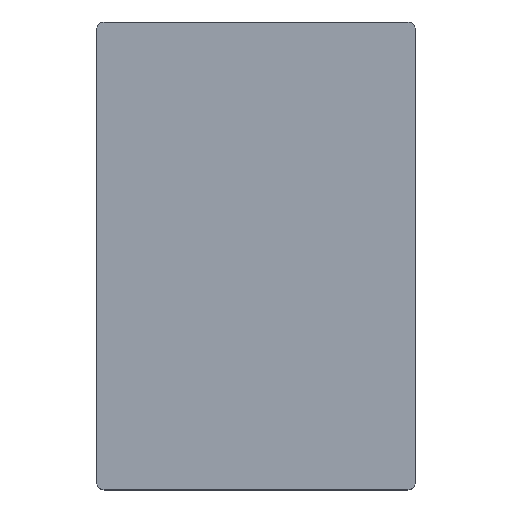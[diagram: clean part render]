
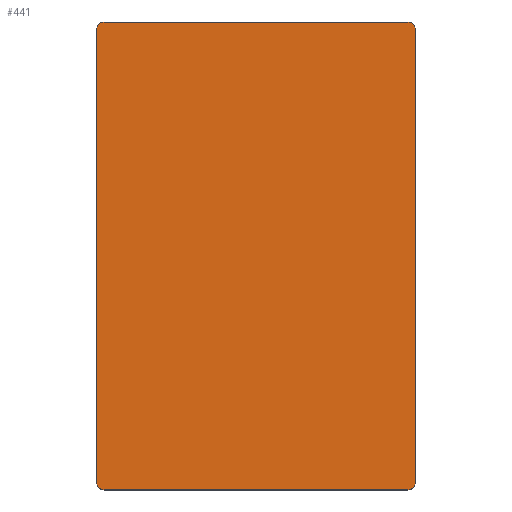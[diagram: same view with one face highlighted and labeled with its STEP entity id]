
A CAD part, top view. The second image highlights one B-rep face of the part: STEP entity #441.
In plain terms, the highlighted planar face has unit normal (0, 0, 1).
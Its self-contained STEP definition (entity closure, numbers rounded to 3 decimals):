
#32 = PLANE('',#33);
#33 = AXIS2_PLACEMENT_3D('',#34,#35,#36);
#34 = CARTESIAN_POINT('',(2.4,-25.1,10.6));
#35 = DIRECTION('',(1.,0.,-0.));
#36 = DIRECTION('',(0.,0.,1.));
#57 = VERTEX_POINT('',#58);
#58 = CARTESIAN_POINT('',(2.4,-24.3,10.6));
#72 = CYLINDRICAL_SURFACE('',#73,0.8);
#73 = AXIS2_PLACEMENT_3D('',#74,#75,#76);
#74 = CARTESIAN_POINT('',(3.2,-24.3,10.6));
#75 = DIRECTION('',(-0.,-0.,-1.));
#76 = DIRECTION('',(-1.,-0.,-0.));
#84 = EDGE_CURVE('',#57,#85,#87,.T.);
#85 = VERTEX_POINT('',#86);
#86 = CARTESIAN_POINT('',(2.4,24.3,10.6));
#87 = SURFACE_CURVE('',#88,(#92,#99),.PCURVE_S1.);
#88 = LINE('',#89,#90);
#89 = CARTESIAN_POINT('',(2.4,-25.1,10.6));
#90 = VECTOR('',#91,1.);
#91 = DIRECTION('',(-0.,1.,0.));
#92 = PCURVE('',#32,#93);
#93 = DEFINITIONAL_REPRESENTATION('',(#94),#98);
#94 = LINE('',#95,#96);
#95 = CARTESIAN_POINT('',(-0.,-0.));
#96 = VECTOR('',#97,1.);
#97 = DIRECTION('',(-0.,-1.));
#98 = ( GEOMETRIC_REPRESENTATION_CONTEXT(2) 
PARAMETRIC_REPRESENTATION_CONTEXT() REPRESENTATION_CONTEXT('2D SPACE',''
  ) );
#99 = PCURVE('',#100,#105);
#100 = PLANE('',#101);
#101 = AXIS2_PLACEMENT_3D('',#102,#103,#104);
#102 = CARTESIAN_POINT('',(2.4,-25.1,10.6));
#103 = DIRECTION('',(0.,-0.,-1.));
#104 = DIRECTION('',(-1.,0.,0.));
#105 = DEFINITIONAL_REPRESENTATION('',(#106),#110);
#106 = LINE('',#107,#108);
#107 = CARTESIAN_POINT('',(-0.,0.));
#108 = VECTOR('',#109,1.);
#109 = DIRECTION('',(-0.,1.));
#110 = ( GEOMETRIC_REPRESENTATION_CONTEXT(2) 
PARAMETRIC_REPRESENTATION_CONTEXT() REPRESENTATION_CONTEXT('2D SPACE',''
  ) );
#126 = CYLINDRICAL_SURFACE('',#127,0.8);
#127 = AXIS2_PLACEMENT_3D('',#128,#129,#130);
#128 = CARTESIAN_POINT('',(3.2,24.3,10.6));
#129 = DIRECTION('',(-0.,-0.,-1.));
#130 = DIRECTION('',(-1.,-0.,-0.));
#186 = PLANE('',#187);
#187 = AXIS2_PLACEMENT_3D('',#188,#189,#190);
#188 = CARTESIAN_POINT('',(2.4,-25.1,10.6));
#189 = DIRECTION('',(-0.,1.,0.));
#190 = DIRECTION('',(0.,0.,1.));
#215 = CYLINDRICAL_SURFACE('',#216,0.8);
#216 = AXIS2_PLACEMENT_3D('',#217,#218,#219);
#217 = CARTESIAN_POINT('',(35.8,-24.3,10.6));
#218 = DIRECTION('',(-0.,-0.,-1.));
#219 = DIRECTION('',(1.,-0.,-0.));
#243 = PLANE('',#244);
#244 = AXIS2_PLACEMENT_3D('',#245,#246,#247);
#245 = CARTESIAN_POINT('',(36.6,-25.1,10.6));
#246 = DIRECTION('',(1.,0.,-0.));
#247 = DIRECTION('',(0.,0.,1.));
#276 = CYLINDRICAL_SURFACE('',#277,0.8);
#277 = AXIS2_PLACEMENT_3D('',#278,#279,#280);
#278 = CARTESIAN_POINT('',(35.8,24.3,10.6));
#279 = DIRECTION('',(-0.,-0.,-1.));
#280 = DIRECTION('',(1.,-0.,-0.));
#304 = PLANE('',#305);
#305 = AXIS2_PLACEMENT_3D('',#306,#307,#308);
#306 = CARTESIAN_POINT('',(2.4,25.1,10.6));
#307 = DIRECTION('',(-0.,1.,0.));
#308 = DIRECTION('',(0.,0.,1.));
#341 = EDGE_CURVE('',#57,#342,#344,.T.);
#342 = VERTEX_POINT('',#343);
#343 = CARTESIAN_POINT('',(3.2,-25.1,10.6));
#344 = SURFACE_CURVE('',#345,(#350,#357),.PCURVE_S1.);
#345 = CIRCLE('',#346,0.8);
#346 = AXIS2_PLACEMENT_3D('',#347,#348,#349);
#347 = CARTESIAN_POINT('',(3.2,-24.3,10.6));
#348 = DIRECTION('',(0.,-0.,1.));
#349 = DIRECTION('',(-0.,-1.,-0.));
#350 = PCURVE('',#72,#351);
#351 = DEFINITIONAL_REPRESENTATION('',(#352),#356);
#352 = LINE('',#353,#354);
#353 = CARTESIAN_POINT('',(4.712,-0.));
#354 = VECTOR('',#355,1.);
#355 = DIRECTION('',(-1.,0.));
#356 = ( GEOMETRIC_REPRESENTATION_CONTEXT(2) 
PARAMETRIC_REPRESENTATION_CONTEXT() REPRESENTATION_CONTEXT('2D SPACE',''
  ) );
#357 = PCURVE('',#100,#358);
#358 = DEFINITIONAL_REPRESENTATION('',(#359),#367);
#359 = ( BOUNDED_CURVE() B_SPLINE_CURVE(2,(#360,#361,#362,#363,#364,#365
,#366),.UNSPECIFIED.,.T.,.F.) B_SPLINE_CURVE_WITH_KNOTS((1,2,2,2,2,1),(
    -2.094,0.,2.094,4.189,6.283,
8.378),.UNSPECIFIED.) CURVE() GEOMETRIC_REPRESENTATION_ITEM() 
RATIONAL_B_SPLINE_CURVE((1.,0.5,1.,0.5,1.,0.5,1.)) REPRESENTATION_ITEM(
  '') );
#360 = CARTESIAN_POINT('',(-0.8,0.));
#361 = CARTESIAN_POINT('',(-2.186,0.));
#362 = CARTESIAN_POINT('',(-1.493,1.2));
#363 = CARTESIAN_POINT('',(-0.8,2.4));
#364 = CARTESIAN_POINT('',(-0.107,1.2));
#365 = CARTESIAN_POINT('',(0.586,0.));
#366 = CARTESIAN_POINT('',(-0.8,0.));
#367 = ( GEOMETRIC_REPRESENTATION_CONTEXT(2) 
PARAMETRIC_REPRESENTATION_CONTEXT() REPRESENTATION_CONTEXT('2D SPACE',''
  ) );
#395 = EDGE_CURVE('',#85,#396,#398,.T.);
#396 = VERTEX_POINT('',#397);
#397 = CARTESIAN_POINT('',(3.2,25.1,10.6));
#398 = SURFACE_CURVE('',#399,(#404,#411),.PCURVE_S1.);
#399 = CIRCLE('',#400,0.8);
#400 = AXIS2_PLACEMENT_3D('',#401,#402,#403);
#401 = CARTESIAN_POINT('',(3.2,24.3,10.6));
#402 = DIRECTION('',(0.,0.,-1.));
#403 = DIRECTION('',(-0.,-1.,-0.));
#404 = PCURVE('',#126,#405);
#405 = DEFINITIONAL_REPRESENTATION('',(#406),#410);
#406 = LINE('',#407,#408);
#407 = CARTESIAN_POINT('',(-1.571,0.));
#408 = VECTOR('',#409,1.);
#409 = DIRECTION('',(1.,0.));
#410 = ( GEOMETRIC_REPRESENTATION_CONTEXT(2) 
PARAMETRIC_REPRESENTATION_CONTEXT() REPRESENTATION_CONTEXT('2D SPACE',''
  ) );
#411 = PCURVE('',#100,#412);
#412 = DEFINITIONAL_REPRESENTATION('',(#413),#417);
#413 = CIRCLE('',#414,0.8);
#414 = AXIS2_PLACEMENT_2D('',#415,#416);
#415 = CARTESIAN_POINT('',(-0.8,49.4));
#416 = DIRECTION('',(-0.,-1.));
#417 = ( GEOMETRIC_REPRESENTATION_CONTEXT(2) 
PARAMETRIC_REPRESENTATION_CONTEXT() REPRESENTATION_CONTEXT('2D SPACE',''
  ) );
#441 = ADVANCED_FACE('',(#442),#100,.F.);
#442 = FACE_BOUND('',#443,.T.);
#443 = EDGE_LOOP('',(#444,#445,#446,#469,#493,#516,#544,#565));
#444 = ORIENTED_EDGE('',*,*,#84,.F.);
#445 = ORIENTED_EDGE('',*,*,#341,.T.);
#446 = ORIENTED_EDGE('',*,*,#447,.T.);
#447 = EDGE_CURVE('',#342,#448,#450,.T.);
#448 = VERTEX_POINT('',#449);
#449 = CARTESIAN_POINT('',(35.8,-25.1,10.6));
#450 = SURFACE_CURVE('',#451,(#455,#462),.PCURVE_S1.);
#451 = LINE('',#452,#453);
#452 = CARTESIAN_POINT('',(2.4,-25.1,10.6));
#453 = VECTOR('',#454,1.);
#454 = DIRECTION('',(1.,0.,-0.));
#455 = PCURVE('',#100,#456);
#456 = DEFINITIONAL_REPRESENTATION('',(#457),#461);
#457 = LINE('',#458,#459);
#458 = CARTESIAN_POINT('',(-0.,0.));
#459 = VECTOR('',#460,1.);
#460 = DIRECTION('',(-1.,0.));
#461 = ( GEOMETRIC_REPRESENTATION_CONTEXT(2) 
PARAMETRIC_REPRESENTATION_CONTEXT() REPRESENTATION_CONTEXT('2D SPACE',''
  ) );
#462 = PCURVE('',#186,#463);
#463 = DEFINITIONAL_REPRESENTATION('',(#464),#468);
#464 = LINE('',#465,#466);
#465 = CARTESIAN_POINT('',(0.,-0.));
#466 = VECTOR('',#467,1.);
#467 = DIRECTION('',(-0.,1.));
#468 = ( GEOMETRIC_REPRESENTATION_CONTEXT(2) 
PARAMETRIC_REPRESENTATION_CONTEXT() REPRESENTATION_CONTEXT('2D SPACE',''
  ) );
#469 = ORIENTED_EDGE('',*,*,#470,.F.);
#470 = EDGE_CURVE('',#471,#448,#473,.T.);
#471 = VERTEX_POINT('',#472);
#472 = CARTESIAN_POINT('',(36.6,-24.3,10.6));
#473 = SURFACE_CURVE('',#474,(#479,#486),.PCURVE_S1.);
#474 = CIRCLE('',#475,0.8);
#475 = AXIS2_PLACEMENT_3D('',#476,#477,#478);
#476 = CARTESIAN_POINT('',(35.8,-24.3,10.6));
#477 = DIRECTION('',(0.,0.,-1.));
#478 = DIRECTION('',(-0.,-1.,-0.));
#479 = PCURVE('',#100,#480);
#480 = DEFINITIONAL_REPRESENTATION('',(#481),#485);
#481 = CIRCLE('',#482,0.8);
#482 = AXIS2_PLACEMENT_2D('',#483,#484);
#483 = CARTESIAN_POINT('',(-33.4,0.8));
#484 = DIRECTION('',(-0.,-1.));
#485 = ( GEOMETRIC_REPRESENTATION_CONTEXT(2) 
PARAMETRIC_REPRESENTATION_CONTEXT() REPRESENTATION_CONTEXT('2D SPACE',''
  ) );
#486 = PCURVE('',#215,#487);
#487 = DEFINITIONAL_REPRESENTATION('',(#488),#492);
#488 = LINE('',#489,#490);
#489 = CARTESIAN_POINT('',(-4.712,0.));
#490 = VECTOR('',#491,1.);
#491 = DIRECTION('',(1.,0.));
#492 = ( GEOMETRIC_REPRESENTATION_CONTEXT(2) 
PARAMETRIC_REPRESENTATION_CONTEXT() REPRESENTATION_CONTEXT('2D SPACE',''
  ) );
#493 = ORIENTED_EDGE('',*,*,#494,.T.);
#494 = EDGE_CURVE('',#471,#495,#497,.T.);
#495 = VERTEX_POINT('',#496);
#496 = CARTESIAN_POINT('',(36.6,24.3,10.6));
#497 = SURFACE_CURVE('',#498,(#502,#509),.PCURVE_S1.);
#498 = LINE('',#499,#500);
#499 = CARTESIAN_POINT('',(36.6,-25.1,10.6));
#500 = VECTOR('',#501,1.);
#501 = DIRECTION('',(-0.,1.,0.));
#502 = PCURVE('',#100,#503);
#503 = DEFINITIONAL_REPRESENTATION('',(#504),#508);
#504 = LINE('',#505,#506);
#505 = CARTESIAN_POINT('',(-34.2,0.));
#506 = VECTOR('',#507,1.);
#507 = DIRECTION('',(-0.,1.));
#508 = ( GEOMETRIC_REPRESENTATION_CONTEXT(2) 
PARAMETRIC_REPRESENTATION_CONTEXT() REPRESENTATION_CONTEXT('2D SPACE',''
  ) );
#509 = PCURVE('',#243,#510);
#510 = DEFINITIONAL_REPRESENTATION('',(#511),#515);
#511 = LINE('',#512,#513);
#512 = CARTESIAN_POINT('',(-0.,-0.));
#513 = VECTOR('',#514,1.);
#514 = DIRECTION('',(-0.,-1.));
#515 = ( GEOMETRIC_REPRESENTATION_CONTEXT(2) 
PARAMETRIC_REPRESENTATION_CONTEXT() REPRESENTATION_CONTEXT('2D SPACE',''
  ) );
#516 = ORIENTED_EDGE('',*,*,#517,.T.);
#517 = EDGE_CURVE('',#495,#518,#520,.T.);
#518 = VERTEX_POINT('',#519);
#519 = CARTESIAN_POINT('',(35.8,25.1,10.6));
#520 = SURFACE_CURVE('',#521,(#526,#537),.PCURVE_S1.);
#521 = CIRCLE('',#522,0.8);
#522 = AXIS2_PLACEMENT_3D('',#523,#524,#525);
#523 = CARTESIAN_POINT('',(35.8,24.3,10.6));
#524 = DIRECTION('',(0.,-0.,1.));
#525 = DIRECTION('',(-0.,-1.,-0.));
#526 = PCURVE('',#100,#527);
#527 = DEFINITIONAL_REPRESENTATION('',(#528),#536);
#528 = ( BOUNDED_CURVE() B_SPLINE_CURVE(2,(#529,#530,#531,#532,#533,#534
,#535),.UNSPECIFIED.,.T.,.F.) B_SPLINE_CURVE_WITH_KNOTS((1,2,2,2,2,1),(
    -2.094,0.,2.094,4.189,6.283,
8.378),.UNSPECIFIED.) CURVE() GEOMETRIC_REPRESENTATION_ITEM() 
RATIONAL_B_SPLINE_CURVE((1.,0.5,1.,0.5,1.,0.5,1.)) REPRESENTATION_ITEM(
  '') );
#529 = CARTESIAN_POINT('',(-33.4,48.6));
#530 = CARTESIAN_POINT('',(-34.786,48.6));
#531 = CARTESIAN_POINT('',(-34.093,49.8));
#532 = CARTESIAN_POINT('',(-33.4,51.));
#533 = CARTESIAN_POINT('',(-32.707,49.8));
#534 = CARTESIAN_POINT('',(-32.014,48.6));
#535 = CARTESIAN_POINT('',(-33.4,48.6));
#536 = ( GEOMETRIC_REPRESENTATION_CONTEXT(2) 
PARAMETRIC_REPRESENTATION_CONTEXT() REPRESENTATION_CONTEXT('2D SPACE',''
  ) );
#537 = PCURVE('',#276,#538);
#538 = DEFINITIONAL_REPRESENTATION('',(#539),#543);
#539 = LINE('',#540,#541);
#540 = CARTESIAN_POINT('',(1.571,-0.));
#541 = VECTOR('',#542,1.);
#542 = DIRECTION('',(-1.,0.));
#543 = ( GEOMETRIC_REPRESENTATION_CONTEXT(2) 
PARAMETRIC_REPRESENTATION_CONTEXT() REPRESENTATION_CONTEXT('2D SPACE',''
  ) );
#544 = ORIENTED_EDGE('',*,*,#545,.F.);
#545 = EDGE_CURVE('',#396,#518,#546,.T.);
#546 = SURFACE_CURVE('',#547,(#551,#558),.PCURVE_S1.);
#547 = LINE('',#548,#549);
#548 = CARTESIAN_POINT('',(2.4,25.1,10.6));
#549 = VECTOR('',#550,1.);
#550 = DIRECTION('',(1.,0.,-0.));
#551 = PCURVE('',#100,#552);
#552 = DEFINITIONAL_REPRESENTATION('',(#553),#557);
#553 = LINE('',#554,#555);
#554 = CARTESIAN_POINT('',(-0.,50.2));
#555 = VECTOR('',#556,1.);
#556 = DIRECTION('',(-1.,0.));
#557 = ( GEOMETRIC_REPRESENTATION_CONTEXT(2) 
PARAMETRIC_REPRESENTATION_CONTEXT() REPRESENTATION_CONTEXT('2D SPACE',''
  ) );
#558 = PCURVE('',#304,#559);
#559 = DEFINITIONAL_REPRESENTATION('',(#560),#564);
#560 = LINE('',#561,#562);
#561 = CARTESIAN_POINT('',(0.,-0.));
#562 = VECTOR('',#563,1.);
#563 = DIRECTION('',(-0.,1.));
#564 = ( GEOMETRIC_REPRESENTATION_CONTEXT(2) 
PARAMETRIC_REPRESENTATION_CONTEXT() REPRESENTATION_CONTEXT('2D SPACE',''
  ) );
#565 = ORIENTED_EDGE('',*,*,#395,.F.);
